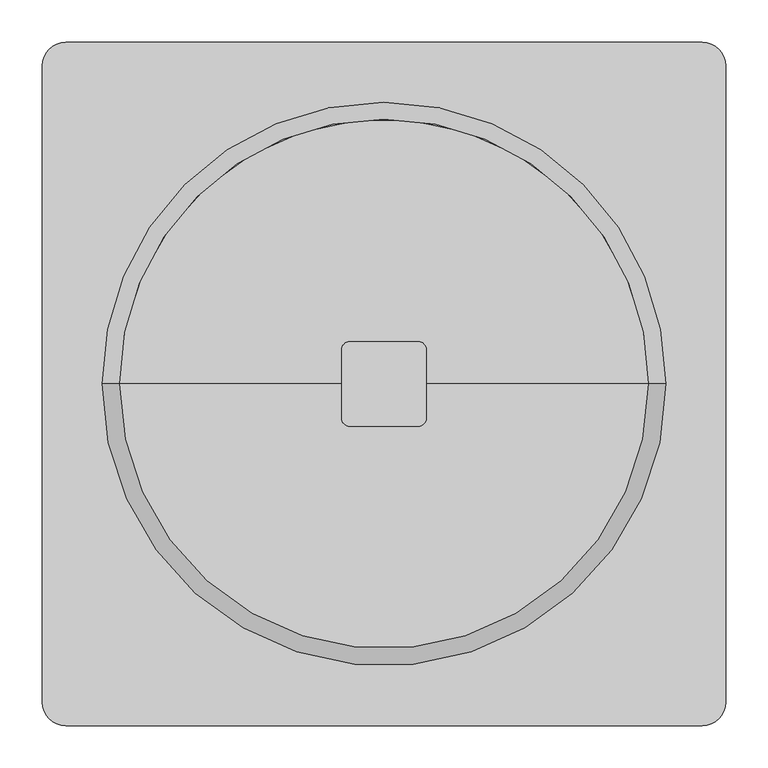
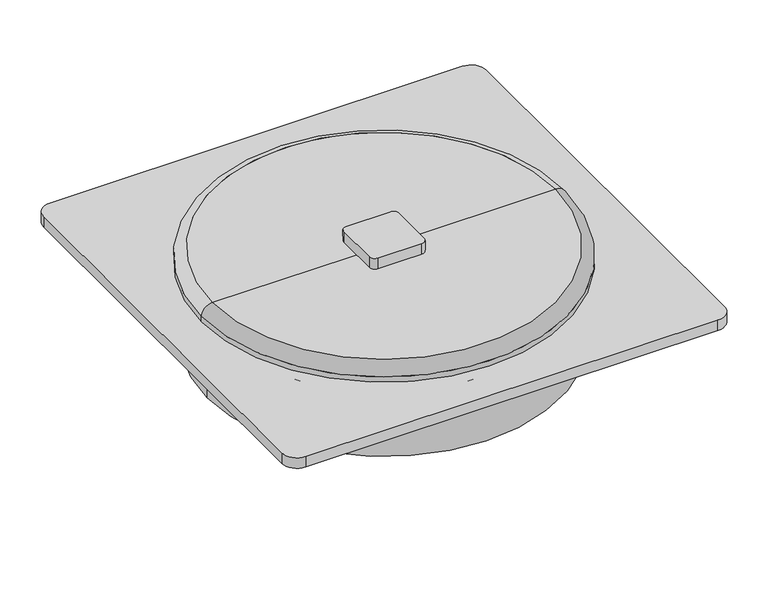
"""IFC4 building model written with IfcOpenShell, lengths in millimetres: unitary equipment geometry, VE-Wentylator-ParaForma-Harmann-WAF-Wywiewny : 630/4/18900T."""

from ifc_helpers import new_model, si_unit, point, frame, frame_2d, origin, origin_with_axes, origin_2d, place, context, project, spatial, polyline, circle_curve, ellipse_curve, trimmed, segment, composite_curve, outline, extrude, source, transform, mapped, element, save
from ifc_brep_helpers import plane_surface, cylinder_surface, revolved_surface, advanced_brep


def unitary_equipment_7b43ce13(model_context):
    return source(origin(), model_context, "Body", "SolidModel", [
        advanced_brep(
        [(332.0, 0.0, 20.0), (-332.0, 0.0, 20.0), (0.0, 0.0, 20.0), (332.0, 0.0, 30.0), (-332.0, 0.0, 30.0), (312.0, 0.0, 50.0), (-312.0, 0.0, 50.0), (0.0, 0.0, 50.0)],
        [
            (0, 1, circle_curve(frame((0.0, 0.0, 20.0), z_axis=(0.0, 0.0, -1.0), x_axis=(-1.0000000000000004, 0.0, 0.0)), 332.0)),
            (1, 2),
            (2, 0),
            (1, 0, circle_curve(frame((0.0, 0.0, 20.0), z_axis=(0.0, 0.0, -1.0), x_axis=(-1.0000000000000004, 0.0, 0.0)), 332.0)),
            (3, 4, circle_curve(frame((0.0, 0.0, 30.0), z_axis=(0.0, 0.0, -1.0), x_axis=(-1.0000000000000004, 0.0, 0.0)), 332.0)),
            (4, 1),
            (0, 3),
            (4, 3, circle_curve(frame((0.0, 0.0, 30.0), z_axis=(0.0, 0.0, -1.0), x_axis=(-1.0000000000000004, 0.0, 0.0)), 332.0)),
            (5, 6, circle_curve(frame((0.0, 0.0, 50.0), z_axis=(0.0, 0.0, -1.0), x_axis=(-1.0000000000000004, 0.0, 0.0)), 312.0)),
            (6, 4, circle_curve(frame((-312.0, 0.0, 30.0), z_axis=(0.0, -1.0000000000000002, 0.0), x_axis=(0.0, 0.0, -1.0000000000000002)), 20.0)),
            (3, 5, circle_curve(frame((312.0, 0.0, 30.0), z_axis=(0.0, -1.0000000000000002, 0.0), x_axis=(0.0, 0.0, -1.0000000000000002)), 20.0)),
            (6, 5, circle_curve(frame((0.0, 0.0, 50.0), z_axis=(0.0, 0.0, -1.0), x_axis=(-1.0000000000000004, 0.0, 0.0)), 312.0)),
            (7, 6),
            (5, 7),
        ],
        [
            plane_surface(frame((0.0, 0.0, 20.0), z_axis=(0.0, 0.0, -1.0), x_axis=(-1.0, 0.0, 0.0))),
            cylinder_surface(frame((0.0, 0.0, 50.0), z_axis=(0.0, 0.0, 1.0000000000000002), x_axis=(-1.0000000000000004, 0.0, 0.0)), 332.0),
            revolved_surface(trimmed(ellipse_curve(frame((-312.0, 0.0, 30.0), z_axis=(0.0, 1.0000000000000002, 0.0), x_axis=(0.0, 0.0, -1.0000000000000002)), 20.0, 20.0), [point((-332.0, 0.0, 30.0))], [point((-312.0, 0.0, 50.0))], True, "CARTESIAN"), (0.0, 0.0, 50.0), (0.0, 0.0, 1.0000000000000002)),
            plane_surface(frame((0.0, 0.0, 50.0), z_axis=(0.0, 0.0, 1.0), x_axis=(-1.0, 0.0, 0.0))),
        ],
        [
            (0, [[1, 2, 3]]),
            (0, [[4, -3, -2]]),
            (1, [[5, 6, -1, 7]]),
            (1, [[8, -7, -4, -6]]),
            (2, [[9, 10, -5, 11]]),
            (2, [[12, -11, -8, -10]]),
            (3, [[13, -9, 14]]),
            (3, [[-14, -12, -13]]),
        ],
    ),
        extrude(outline(composite_curve([segment(trimmed(circle_curve(origin_2d(), 99.6), [point((99.6, 0.0))], [point((-99.6, 0.0))], False, "CARTESIAN"), True, "CONTINUOUS"), segment(trimmed(circle_curve(origin_2d(), 99.6), [point((-99.6, 0.0))], [point((99.6, 0.0))], False, "CARTESIAN"), True, "CONTINUOUS")], self_intersect=False)), frame((0.0, 0.0, -175.0), z_axis=(0.0, 0.0, 1.0), x_axis=(1.0, 0.0, 0.0)), (0.0, 0.0, 1.0), 45.0),
        advanced_brep(
        [(0.0, 0.0, 0.0), (-332.0, 0.0, 0.0), (332.0, 0.0, 0.0), (321.5, 0.0, -130.0), (-321.5, 0.0, -130.0), (0.0, 0.0, -130.0), (321.5, 0.0, -10.5), (-321.5, 0.0, -10.5)],
        [
            (0, 1),
            (1, 2, circle_curve(frame((0.0, 0.0, 0.0), z_axis=(0.0, 0.0, 1.0), x_axis=(-1.0000000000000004, 0.0, 0.0)), 332.0)),
            (2, 0),
            (2, 1, circle_curve(frame((0.0, 0.0, 0.0), z_axis=(0.0, 0.0, 1.0), x_axis=(-1.0000000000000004, 0.0, 0.0)), 332.0)),
            (3, 4, circle_curve(frame((0.0, 0.0, -130.0), z_axis=(0.0, 0.0, -1.0), x_axis=(-1.0000000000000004, 0.0, 0.0)), 321.5)),
            (4, 5),
            (5, 3),
            (4, 3, circle_curve(frame((0.0, 0.0, -130.0), z_axis=(0.0, 0.0, -1.0), x_axis=(-1.0000000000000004, 0.0, 0.0)), 321.5)),
            (6, 7, circle_curve(frame((0.0, 0.0, -10.5), z_axis=(0.0, 0.0, -1.0), x_axis=(-1.0000000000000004, 0.0, 0.0)), 321.5)),
            (7, 4),
            (3, 6),
            (7, 6, circle_curve(frame((0.0, 0.0, -10.5), z_axis=(0.0, 0.0, -1.0), x_axis=(-1.0000000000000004, 0.0, 0.0)), 321.5)),
            (1, 7, circle_curve(frame((-332.0, 0.0, -10.5), z_axis=(0.0, 1.0000000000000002, 0.0), x_axis=(0.0, 0.0, -1.0000000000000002)), 10.5)),
            (6, 2, circle_curve(frame((332.0, 0.0, -10.5), z_axis=(0.0, 1.0000000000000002, 0.0), x_axis=(0.0, 0.0, -1.0000000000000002)), 10.5)),
        ],
        [
            plane_surface(frame((0.0, 0.0, 0.0), z_axis=(0.0, 0.0, 1.0), x_axis=(-1.0, 0.0, 0.0))),
            plane_surface(frame((0.0, 0.0, -130.0), z_axis=(0.0, 0.0, -1.0), x_axis=(-1.0, 0.0, 0.0))),
            cylinder_surface(frame((0.0, 0.0, 0.0), z_axis=(0.0, 0.0, 1.0000000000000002), x_axis=(-1.0000000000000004, 0.0, 0.0)), 321.5),
            revolved_surface(trimmed(ellipse_curve(frame((-332.0, 0.0, -10.5), z_axis=(0.0, -1.0000000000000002, 0.0), x_axis=(0.0, 0.0, -1.0000000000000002)), 10.5, 10.5), [point((-321.5, 0.0, -10.5))], [point((-332.0, 0.0, 0.0))], True, "CARTESIAN"), (0.0, 0.0, 0.0), (0.0, 0.0, 1.0000000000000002)),
        ],
        [
            (0, [[1, 2, 3]]),
            (0, [[-3, 4, -1]]),
            (1, [[5, 6, 7]]),
            (1, [[8, -7, -6]]),
            (2, [[9, 10, -5, 11]]),
            (2, [[12, -11, -8, -10]]),
            (3, [[-2, 13, -9, 14]]),
            (3, [[-4, -14, -12, -13]]),
        ],
    ),
        extrude(outline(composite_curve([segment(polyline([(40.0, -50.0), (-40.0, -50.0)]), True, "CONTINUOUS"), segment(trimmed(circle_curve(frame_2d((-40.0, -40.0)), 10.0), [point((-40.0, -50.0))], [point((-50.0, -40.0))], False, "CARTESIAN"), True, "CONTINUOUS"), segment(polyline([(-50.0, -40.0), (-50.0, 40.0)]), True, "CONTINUOUS"), segment(trimmed(circle_curve(frame_2d((-40.0, 40.0)), 10.0), [point((-50.0, 40.0))], [point((-40.0, 50.0))], False, "CARTESIAN"), True, "CONTINUOUS"), segment(polyline([(-40.0, 50.0), (40.0, 50.0)]), True, "CONTINUOUS"), segment(trimmed(circle_curve(frame_2d((40.0, 40.0)), 10.0), [point((40.0, 50.0))], [point((50.0, 40.0))], False, "CARTESIAN"), True, "CONTINUOUS"), segment(polyline([(50.0, 40.0), (50.0, -40.0)]), True, "CONTINUOUS"), segment(trimmed(circle_curve(frame_2d((40.0, -40.0)), 10.0), [point((50.0, -40.0))], [point((40.0, -50.0))], False, "CARTESIAN"), True, "CONTINUOUS")], self_intersect=False)), frame((0.0, 0.0, 50.0), z_axis=(0.0, 0.0, 1.0), x_axis=(1.0, 0.0, 0.0)), (0.0, 0.0, 1.0), 21.0),
        extrude(outline(composite_curve([segment(polyline([(375.0, -402.5), (-375.0, -402.5)]), True, "CONTINUOUS"), segment(trimmed(circle_curve(frame_2d((-375.0, -375.0)), 27.5), [point((-375.0, -402.5))], [point((-402.5, -375.0))], False, "CARTESIAN"), True, "CONTINUOUS"), segment(polyline([(-402.5, -375.0), (-402.5, 375.0)]), True, "CONTINUOUS"), segment(trimmed(circle_curve(frame_2d((-375.0, 375.0)), 27.5), [point((-402.5, 375.0))], [point((-375.0, 402.5))], False, "CARTESIAN"), True, "CONTINUOUS"), segment(polyline([(-375.0, 402.5), (375.0, 402.5)]), True, "CONTINUOUS"), segment(trimmed(circle_curve(frame_2d((375.0, 375.0)), 27.5), [point((375.0, 402.5))], [point((402.5, 375.0))], False, "CARTESIAN"), True, "CONTINUOUS"), segment(polyline([(402.5, 375.0), (402.5, -375.0)]), True, "CONTINUOUS"), segment(trimmed(circle_curve(frame_2d((375.0, -375.0)), 27.5), [point((402.5, -375.0))], [point((375.0, -402.5))], False, "CARTESIAN"), True, "CONTINUOUS")], self_intersect=False)), origin_with_axes(), (0.0, 0.0, 1.0), 20.0),
    ])


if __name__ == "__main__":
    model = new_model("IFC4")
    model_context = context("Model", 3, world=origin())
    ifc_project = project(units=[si_unit("LENGTHUNIT", "METRE", prefix="MILLI")], contexts=[model_context])
    site = spatial("IfcSite", under=ifc_project)
    building = spatial("IfcBuilding", under=site)
    placement = place(None, origin())
    unitary_equipment_shape = unitary_equipment_7b43ce13(model_context)
    element("IfcUnitaryEquipment", 1, ObjectType="VE-Wentylator-ParaForma-Harmann-WAF-Wywiewny : 630/4/18900T", at=placement, inside=building, context=model_context, shape_type="MappedRepresentation", body=[
        mapped(unitary_equipment_shape, transform((0.0, 0.0, 0.0), x_axis=(1.0, 0.0, 0.0), y_axis=(0.0, 1.0, 0.0), z_axis=(0.0, 0.0, 1.0))),
    ])
    save(model, "model.ifc")
